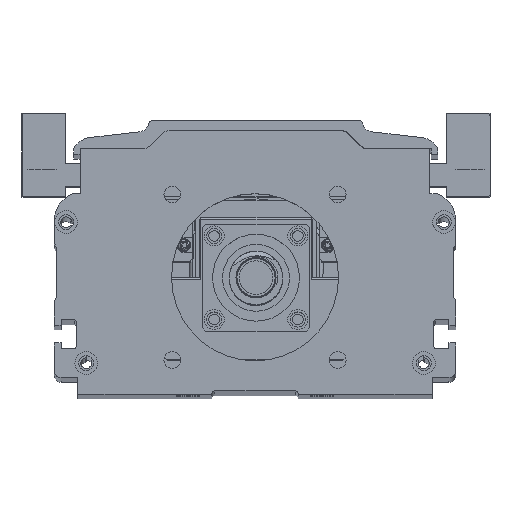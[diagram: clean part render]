
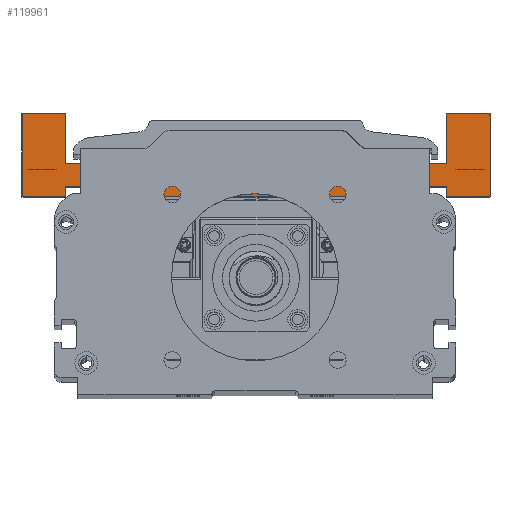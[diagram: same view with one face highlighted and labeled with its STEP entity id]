
A CAD part, top view. The second image highlights one B-rep face of the part: STEP entity #119961.
In plain terms, the highlighted planar face has unit normal (0, 0, 1) as drawn and (0, 0, -1) by its records, which use the part's own axes.
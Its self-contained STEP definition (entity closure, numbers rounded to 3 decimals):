
#335 = DIRECTION ( 'NONE',  ( 1., 0., 0. ) ) ;
#1031 = VECTOR ( 'NONE', #63187, 1000. ) ;
#2638 = LINE ( 'NONE', #48037, #80224 ) ;
#4367 = VERTEX_POINT ( 'NONE', #129112 ) ;
#4611 = ORIENTED_EDGE ( 'NONE', *, *, #101389, .F. ) ;
#5185 = CARTESIAN_POINT ( 'NONE',  ( 140., -25., 0. ) ) ;
#6830 = DIRECTION ( 'NONE',  ( 0., 1., 0. ) ) ;
#7699 = VECTOR ( 'NONE', #77452, 1000. ) ;
#8706 = VECTOR ( 'NONE', #25994, 1000. ) ;
#8932 = DIRECTION ( 'NONE',  ( 0., 1., 0. ) ) ;
#10506 = VECTOR ( 'NONE', #21460, 1000. ) ;
#11261 = CARTESIAN_POINT ( 'NONE',  ( 13., -25., 0. ) ) ;
#11410 = CARTESIAN_POINT ( 'NONE',  ( 127., -25., 0. ) ) ;
#11523 = VECTOR ( 'NONE', #6830, 1000. ) ;
#11943 = ORIENTED_EDGE ( 'NONE', *, *, #48812, .F. ) ;
#12046 = LINE ( 'NONE', #39407, #86473 ) ;
#12575 = CARTESIAN_POINT ( 'NONE',  ( 121., -22., 0. ) ) ;
#14198 = EDGE_LOOP ( 'NONE', ( #108561, #32808, #90204, #65827, #64435, #86784, #4611, #103399, #98842, #90956, #11943, #109269, #31699, #15310, #76182, #98818 ) ) ;
#14519 = CARTESIAN_POINT ( 'NONE',  ( 127., -22., 0. ) ) ;
#15310 = ORIENTED_EDGE ( 'NONE', *, *, #27699, .F. ) ;
#16333 = DIRECTION ( 'NONE',  ( 0., 0., 1. ) ) ;
#16699 = LINE ( 'NONE', #78380, #94293 ) ;
#17761 = DIRECTION ( 'NONE',  ( 0., -1., 0. ) ) ;
#19367 = EDGE_CURVE ( 'NONE', #4367, #83064, #67008, .T. ) ;
#19960 = CARTESIAN_POINT ( 'NONE',  ( 19., -22., 0. ) ) ;
#21218 = CARTESIAN_POINT ( 'NONE',  ( 0., 0., 0. ) ) ;
#21460 = DIRECTION ( 'NONE',  ( 0., 1., 0. ) ) ;
#25657 = VERTEX_POINT ( 'NONE', #121795 ) ;
#25994 = DIRECTION ( 'NONE',  ( 1., 0., 0. ) ) ;
#26322 = EDGE_CURVE ( 'NONE', #40917, #4367, #2638, .T. ) ;
#26565 = EDGE_CURVE ( 'NONE', #123219, #57791, #64360, .T. ) ;
#27699 = EDGE_CURVE ( 'NONE', #126092, #30262, #110066, .T. ) ;
#29344 = CARTESIAN_POINT ( 'NONE',  ( 13., -22., 0. ) ) ;
#29430 = DIRECTION ( 'NONE',  ( 0., -1., 0. ) ) ;
#30262 = VERTEX_POINT ( 'NONE', #46444 ) ;
#30309 = EDGE_CURVE ( 'NONE', #130779, #126092, #34657, .T. ) ;
#31699 = ORIENTED_EDGE ( 'NONE', *, *, #114388, .F. ) ;
#32808 = ORIENTED_EDGE ( 'NONE', *, *, #26322, .F. ) ;
#32954 = DIRECTION ( 'NONE',  ( 1., 0., 0. ) ) ;
#34657 = LINE ( 'NONE', #127744, #7699 ) ;
#36114 = VERTEX_POINT ( 'NONE', #5185 ) ;
#36510 = AXIS2_PLACEMENT_3D ( 'NONE', #127240, #16333, #87151 ) ;
#39353 = VECTOR ( 'NONE', #75059, 1000. ) ;
#39407 = CARTESIAN_POINT ( 'NONE',  ( 0., -25., 0. ) ) ;
#40218 = CARTESIAN_POINT ( 'NONE',  ( 127., 0., 0. ) ) ;
#40917 = VERTEX_POINT ( 'NONE', #40218 ) ;
#41634 = LINE ( 'NONE', #44884, #122260 ) ;
#42466 = EDGE_CURVE ( 'NONE', #55195, #40917, #105572, .T. ) ;
#44884 = CARTESIAN_POINT ( 'NONE',  ( 19., -22., 0. ) ) ;
#45097 = EDGE_CURVE ( 'NONE', #47946, #99377, #116284, .T. ) ;
#45392 = CARTESIAN_POINT ( 'NONE',  ( 42., -15., 0. ) ) ;
#46386 = PLANE ( 'NONE',  #36510 ) ;
#46444 = CARTESIAN_POINT ( 'NONE',  ( 0., -25., 0. ) ) ;
#47064 = CARTESIAN_POINT ( 'NONE',  ( 13., -25., 0. ) ) ;
#47946 = VERTEX_POINT ( 'NONE', #48105 ) ;
#48037 = CARTESIAN_POINT ( 'NONE',  ( 127., 0., 0. ) ) ;
#48105 = CARTESIAN_POINT ( 'NONE',  ( 19., -25., 0. ) ) ;
#48812 = EDGE_CURVE ( 'NONE', #57791, #52132, #41634, .T. ) ;
#49212 = VECTOR ( 'NONE', #32954, 1000. ) ;
#52132 = VERTEX_POINT ( 'NONE', #19960 ) ;
#54365 = LINE ( 'NONE', #101278, #78153 ) ;
#54669 = CARTESIAN_POINT ( 'NONE',  ( 140., -25., 0. ) ) ;
#55195 = VERTEX_POINT ( 'NONE', #98147 ) ;
#57249 = CARTESIAN_POINT ( 'NONE',  ( 13., -15., 0. ) ) ;
#57791 = VERTEX_POINT ( 'NONE', #29344 ) ;
#58238 = DIRECTION ( 'NONE',  ( 0., -1., 0. ) ) ;
#62024 = VERTEX_POINT ( 'NONE', #11410 ) ;
#63077 = EDGE_CURVE ( 'NONE', #99377, #25657, #65359, .T. ) ;
#63187 = DIRECTION ( 'NONE',  ( -1., 0., 0. ) ) ;
#64360 = LINE ( 'NONE', #11261, #10506 ) ;
#64435 = ORIENTED_EDGE ( 'NONE', *, *, #68445, .F. ) ;
#65280 = DIRECTION ( 'NONE',  ( 1., 0., 0. ) ) ;
#65359 = LINE ( 'NONE', #130081, #115929 ) ;
#65827 = ORIENTED_EDGE ( 'NONE', *, *, #103746, .F. ) ;
#67008 = LINE ( 'NONE', #45392, #114422 ) ;
#68445 = EDGE_CURVE ( 'NONE', #62024, #36114, #54365, .T. ) ;
#68576 = LINE ( 'NONE', #57249, #11523 ) ;
#75059 = DIRECTION ( 'NONE',  ( 0., 1., 0. ) ) ;
#75364 = EDGE_CURVE ( 'NONE', #52132, #47946, #16699, .T. ) ;
#76148 = LINE ( 'NONE', #12575, #49212 ) ;
#76182 = ORIENTED_EDGE ( 'NONE', *, *, #30309, .F. ) ;
#76464 = CARTESIAN_POINT ( 'NONE',  ( 0., -25., 0. ) ) ;
#77452 = DIRECTION ( 'NONE',  ( -1., 0., 0. ) ) ;
#78153 = VECTOR ( 'NONE', #335, 1000. ) ;
#78380 = CARTESIAN_POINT ( 'NONE',  ( 19., -25., 0. ) ) ;
#80224 = VECTOR ( 'NONE', #58238, 1000. ) ;
#81799 = DIRECTION ( 'NONE',  ( 0., -1., 0. ) ) ;
#83064 = VERTEX_POINT ( 'NONE', #84007 ) ;
#83513 = CARTESIAN_POINT ( 'NONE',  ( 140., 0., 0. ) ) ;
#84007 = CARTESIAN_POINT ( 'NONE',  ( 13., -15., 0. ) ) ;
#86429 = CARTESIAN_POINT ( 'NONE',  ( 13., 0., 0. ) ) ;
#86473 = VECTOR ( 'NONE', #110171, 1000. ) ;
#86784 = ORIENTED_EDGE ( 'NONE', *, *, #99030, .F. ) ;
#87151 = DIRECTION ( 'NONE',  ( 1., 0., 0. ) ) ;
#90204 = ORIENTED_EDGE ( 'NONE', *, *, #42466, .F. ) ;
#90956 = ORIENTED_EDGE ( 'NONE', *, *, #75364, .F. ) ;
#91077 = FACE_OUTER_BOUND ( 'NONE', #14198, .T. ) ;
#94293 = VECTOR ( 'NONE', #17761, 1000. ) ;
#98147 = CARTESIAN_POINT ( 'NONE',  ( 140., 0., 0. ) ) ;
#98818 = ORIENTED_EDGE ( 'NONE', *, *, #126667, .F. ) ;
#98842 = ORIENTED_EDGE ( 'NONE', *, *, #45097, .F. ) ;
#99030 = EDGE_CURVE ( 'NONE', #118278, #62024, #123747, .T. ) ;
#99377 = VERTEX_POINT ( 'NONE', #107146 ) ;
#100216 = CARTESIAN_POINT ( 'NONE',  ( 127., -25., 0. ) ) ;
#101278 = CARTESIAN_POINT ( 'NONE',  ( 0., -25., 0. ) ) ;
#101389 = EDGE_CURVE ( 'NONE', #25657, #118278, #76148, .T. ) ;
#103399 = ORIENTED_EDGE ( 'NONE', *, *, #63077, .F. ) ;
#103746 = EDGE_CURVE ( 'NONE', #36114, #55195, #116790, .T. ) ;
#103972 = CARTESIAN_POINT ( 'NONE',  ( 0., 0., 0. ) ) ;
#105572 = LINE ( 'NONE', #83513, #1031 ) ;
#106064 = DIRECTION ( 'NONE',  ( -1., 0., 0. ) ) ;
#106888 = VECTOR ( 'NONE', #81799, 1000. ) ;
#107146 = CARTESIAN_POINT ( 'NONE',  ( 121., -25., 0. ) ) ;
#108561 = ORIENTED_EDGE ( 'NONE', *, *, #19367, .F. ) ;
#109269 = ORIENTED_EDGE ( 'NONE', *, *, #26565, .F. ) ;
#110066 = LINE ( 'NONE', #21218, #106888 ) ;
#110171 = DIRECTION ( 'NONE',  ( 1., 0., 0. ) ) ;
#114388 = EDGE_CURVE ( 'NONE', #30262, #123219, #12046, .T. ) ;
#114422 = VECTOR ( 'NONE', #106064, 1000. ) ;
#115929 = VECTOR ( 'NONE', #8932, 1000. ) ;
#116284 = LINE ( 'NONE', #76464, #8706 ) ;
#116790 = LINE ( 'NONE', #54669, #39353 ) ;
#117412 = VECTOR ( 'NONE', #29430, 1000. ) ;
#118278 = VERTEX_POINT ( 'NONE', #14519 ) ;
#119961 = ADVANCED_FACE ( 'NONE', ( #91077 ), #46386, .F. ) ;
#121795 = CARTESIAN_POINT ( 'NONE',  ( 121., -22., 0. ) ) ;
#122260 = VECTOR ( 'NONE', #65280, 1000. ) ;
#123219 = VERTEX_POINT ( 'NONE', #47064 ) ;
#123747 = LINE ( 'NONE', #100216, #117412 ) ;
#126092 = VERTEX_POINT ( 'NONE', #103972 ) ;
#126667 = EDGE_CURVE ( 'NONE', #83064, #130779, #68576, .T. ) ;
#127240 = CARTESIAN_POINT ( 'NONE',  ( 0., 0., 0. ) ) ;
#127744 = CARTESIAN_POINT ( 'NONE',  ( 13., 0., 0. ) ) ;
#129112 = CARTESIAN_POINT ( 'NONE',  ( 127., -15., 0. ) ) ;
#130081 = CARTESIAN_POINT ( 'NONE',  ( 121., -25., 0. ) ) ;
#130779 = VERTEX_POINT ( 'NONE', #86429 ) ;
